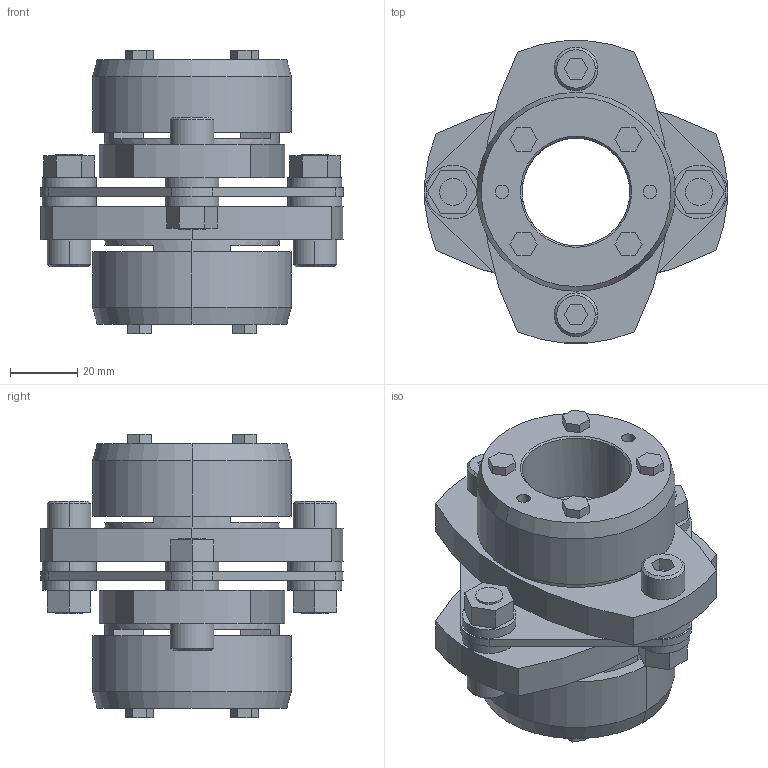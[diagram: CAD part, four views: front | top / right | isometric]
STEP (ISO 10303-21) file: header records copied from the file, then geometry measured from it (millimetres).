
FILE_DESCRIPTION((''),'2;1');
FILE_NAME('LCS-90T7-32×32.stp','2011-09-09T10:19:27',(''),(''),'AutoCAD STEP 2000i','AutoCAD 2000i',', , ');
FILE_SCHEMA(('CONFIG_CONTROL_DESIGN'));
Length unit declared in the file: millimetre
Products named in the file (12): LCS-90T7-32×32; 忣兜1; LC90T7-T032-1; LC90T7-T032; LC90T7-T030; LC90T7-T025-1; LC90T7-T025; LC90T7-T019-1; LC90T7-T019; LC90-B019-1; LC90-B019; LCS90-ITA
Assembly tree (11 placements, depth 2):
  LCS-90T7-32×32
    忣兜1
    LC90T7-T032-1
    LC90T7-T032
    LC90T7-T030
    LC90T7-T025-1
    LC90T7-T025
    LC90T7-T019-1
    LC90T7-T019
    LC90-B019-1
    LC90-B019
    LCS90-ITA
Bounding box: 90 x 89.94 x 84.1 mm (x, y, z)
Volume: 176821.1 mm3; surface area: 50777.1 mm2
Topology: 1 solids, 1 shells, 246 faces, 604 edges, 396 vertices
Faces by surface type: plane 146, cylinder 80, cone 20
Entity records: 7549 total; most frequent: DIRECTION 1316, CARTESIAN_POINT 1258, ORIENTED_EDGE 1208, EDGE_CURVE 604, AXIS2_PLACEMENT_3D 454, VECTOR 408, LINE 408, VERTEX_POINT 396
